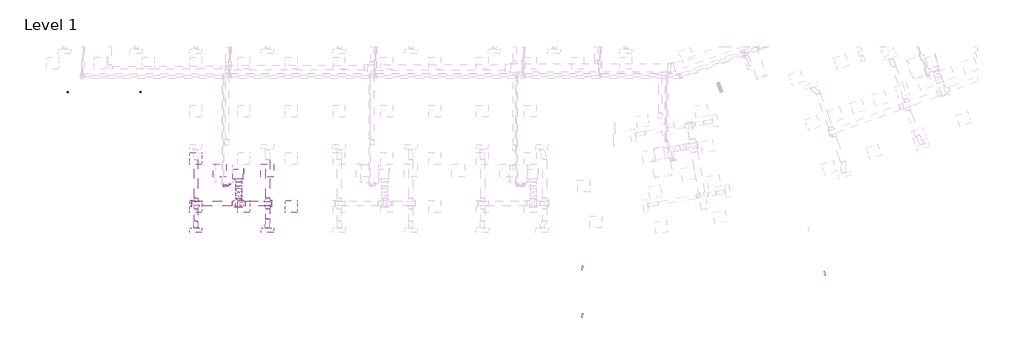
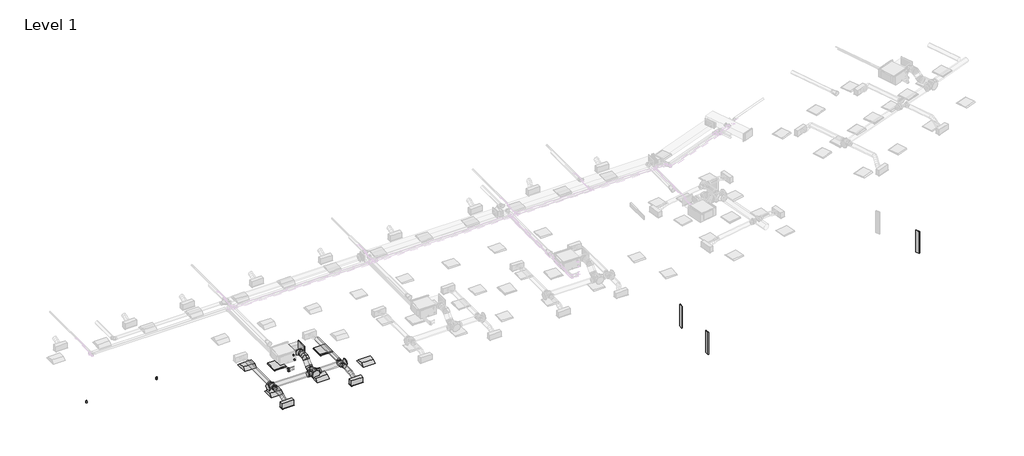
# One storey, part 1 of 30: 13 duct fittings, 12 duct segments, 7 light fixtures, 4 air terminals, 4 pipe fittings, 4 pipe segments, 2 proxies.
"""IFC4 building model written with IfcOpenShell, lengths in millimetres."""

from ifc_helpers import new_model, si_unit, point, frame, frame_2d, origin, place, context, project, spatial, polyline, circle_curve, ellipse_curve, trimmed, segment, composite_curve, outline, extrude, transform, mapped, element, save
from ifc_brep_helpers import plane_surface, cylinder_surface, advanced_brep
from components import return_grille_rectangular_hosted_standard_7b12617c, supply_diffuser_with_plenum_linear_slot_hosted_8c379eed, duplex_receptacle_standard_10251bba, dw144_rectangular_blank_end_standard_8fde7d16, dw144_round_blank_end_standard_f82b0856, dw144_round_blank_end_standard_9aa061e7, dw144_round_segmented_bend_slip_joint_standard_8b80c5ae, dw144_round_shoe_branch_slip_joint1_standard_2_15a2edd8, dw144_round_shoe_branch_slip_joint1_standard_2_559552f4, dw144_round_shoe_branch_slip_joint1_standard_2_7ba9e4ed, dw144_round_shoe_branch_slip_joint1_standard_2_67b64720, plain_recessed_lighting_fixture_2x2_277_2107ce2d, light_fixture_64c2163c, elbow_threaded_gmi_standard_b4aa7741, socket_reducing_threaded_gmi_standard_0a4076b8

model = new_model("IFC4")

# Units and contexts
model_context = context("Model", 3, world=origin())
ifc_project = project(units=[si_unit("LENGTHUNIT", "METRE", prefix="MILLI")], contexts=[model_context])

# Site, building, storey
site = spatial("IfcSite", under=ifc_project)
building = spatial("IfcBuilding", under=site)
storey = spatial("IfcBuildingStorey", under=building, Name="Level 1", Elevation=3900.0)

# Air terminals
placement = place(None, origin())
return_grille_rectangular_hosted_standard_shape = return_grille_rectangular_hosted_standard_7b12617c(model_context)
element("IfcAirTerminal", 1, ObjectType="Return Grille - Rectangular - Hosted : Standard", at=placement, inside=storey, context=model_context, shape_type="MappedRepresentation", body=[
    mapped(return_grille_rectangular_hosted_standard_shape, transform((10362.2000027, 3963.2000004, 6700.0), x_axis=(1.0, 0.0, 0.0), y_axis=(0.0, -1.0, 0.0), z_axis=(0.0, 0.0, -1.0))),
])
element("IfcAirTerminal", 2, ObjectType="Return Grille - Rectangular - Hosted : Standard", at=placement, inside=storey, context=model_context, shape_type="MappedRepresentation", body=[
    mapped(return_grille_rectangular_hosted_standard_shape, transform((12762.2000027, 3963.2000004, 6700.0), x_axis=(1.0, 0.0, 0.0), y_axis=(0.0, -1.0, 0.0), z_axis=(0.0, 0.0, -1.0))),
])
supply_diffuser_with_plenum_linear_slot_hosted_shape = supply_diffuser_with_plenum_linear_slot_hosted_8c379eed(model_context)
element("IfcAirTerminal", 3, ObjectType="Supply Diffuser with Plenum - Linear Slot - Hosted : 24\" x 8\"-200 In Inlet  4-Slot", at=placement, inside=storey, context=model_context, shape_type="MappedRepresentation", body=[
    mapped(supply_diffuser_with_plenum_linear_slot_hosted_shape, transform((9162.2000027, 963.2000004, 6700.0), x_axis=(1.0, 0.0, 0.0), y_axis=(0.0, -1.0, 0.0), z_axis=(0.0, 0.0, -1.0))),
])
element("IfcAirTerminal", 4, ObjectType="Supply Diffuser with Plenum - Linear Slot - Hosted : 24\" x 8\"-200 In Inlet  4-Slot", at=placement, inside=storey, context=model_context, shape_type="MappedRepresentation", body=[
    mapped(supply_diffuser_with_plenum_linear_slot_hosted_shape, transform((12762.2000027, 963.2000004, 6700.0), x_axis=(1.0, 0.0, 0.0), y_axis=(0.0, -1.0, 0.0), z_axis=(0.0, 0.0, -1.0))),
])

# Proxies
duplex_receptacle_standard_shape = duplex_receptacle_standard_10251bba(model_context)
element("IfcBuildingElementProxy", 5, Name="Duplex Receptacle : Standard", ObjectType="Duplex Receptacle : Standard", at=placement, inside=storey, context=model_context, shape_type="MappedRepresentation", body=[
    mapped(duplex_receptacle_standard_shape, transform((6385.8000023, 7938.2000004, 4966.8), x_axis=(-1.0, 0.0, 0.0), y_axis=(0.0, 0.0, 1.0), z_axis=(0.0, 1.0, 0.0))),
])
element("IfcBuildingElementProxy", 6, Name="Duplex Receptacle : Standard", ObjectType="Duplex Receptacle : Standard", at=placement, inside=storey, context=model_context, shape_type="MappedRepresentation", body=[
    mapped(duplex_receptacle_standard_shape, transform((2728.2000023, 7938.2000004, 4966.8), x_axis=(-1.0, 0.0, 0.0), y_axis=(0.0, 0.0, 1.0), z_axis=(0.0, 1.0, 0.0))),
])

# Duct fittings
dw144_rectangular_blank_end_standard_shape = dw144_rectangular_blank_end_standard_8fde7d16(model_context)
element("IfcDuctFitting", 7, ObjectType="DW144 Rectangular Blank End : Standard", at=placement, inside=storey, context=model_context, shape_type="MappedRepresentation", body=[
    mapped(dw144_rectangular_blank_end_standard_shape, transform((11546.2561025, 3806.0000004, 7376.3911538), x_axis=(1.0, 0.0, 0.0), y_axis=(0.0, 1.0, 0.0), z_axis=(0.0, 0.0, 1.0))),
])
dw144_round_blank_end_standard_shape = dw144_round_blank_end_standard_f82b0856(model_context)
element("IfcDuctFitting", 8, ObjectType="DW144 Round Blank End : Standard", at=placement, inside=storey, context=model_context, shape_type="MappedRepresentation", body=[
    mapped(dw144_round_blank_end_standard_shape, transform((11331.4561025, 2142.9916128, 6972.2088531), x_axis=(0.0, -1.0, 0.0), y_axis=(1.0, 0.0, 0.0), z_axis=(0.0, 0.0, 1.0))),
])
dw144_round_blank_end_standard_2_shape = dw144_round_blank_end_standard_9aa061e7(model_context)
element("IfcDuctFitting", 9, ObjectType="DW144 Round Blank End : Standard", at=placement, inside=storey, context=model_context, shape_type="MappedRepresentation", body=[
    mapped(dw144_round_blank_end_standard_2_shape, transform((12961.4561025, 2306.5018192, 6972.2088531), x_axis=(1.0, 0.0, 0.0), y_axis=(0.0, 1.0, 0.0), z_axis=(0.0, 0.0, 1.0))),
])
element("IfcDuctFitting", 10, ObjectType="DW144 Round Blank End : Standard", at=placement, inside=storey, context=model_context, shape_type="MappedRepresentation", body=[
    mapped(dw144_round_blank_end_standard_2_shape, transform((8961.4561025, 2306.5018192, 6972.2088531), x_axis=(-1.0, 0.0, 0.0), y_axis=(0.0, -1.0, 0.0), z_axis=(0.0, 0.0, 1.0))),
])
dw144_round_segmented_bend_slip_joint_standard_shape = dw144_round_segmented_bend_slip_joint_standard_8b80c5ae(model_context)
element("IfcDuctFitting", 11, ObjectType="DW144 Round Segmented Bend - Slip Joint : Standard", at=placement, inside=storey, context=model_context, shape_type="MappedRepresentation", body=[
    mapped(dw144_round_segmented_bend_slip_joint_standard_shape, transform((11331.4561025, 2678.6338536, 6972.2088531), x_axis=(0.0, -0.7071067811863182, -0.7071067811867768), y_axis=(0.0, 0.7071067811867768, -0.7071067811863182), z_axis=(1.0, 0.0, 0.0))),
])
element("IfcDuctFitting", 12, ObjectType="DW144 Round Segmented Bend - Slip Joint : Standard", at=placement, inside=storey, context=model_context, shape_type="MappedRepresentation", body=[
    mapped(dw144_round_segmented_bend_slip_joint_standard_shape, transform((11331.4561025, 3076.0000004, 7369.575), x_axis=(0.0, -1.0, 0.0), y_axis=(0.0, 0.0, 1.0), z_axis=(-1.0, 0.0, 0.0))),
])
dw144_round_shoe_branch_slip_joint1_standard_2_shape = dw144_round_shoe_branch_slip_joint1_standard_2_15a2edd8(model_context)
element("IfcDuctFitting", 13, ObjectType="DW144 Round Shoe Branch - Slip Joint1 : Standard 2", at=placement, inside=storey, context=model_context, shape_type="MappedRepresentation", body=[
    mapped(dw144_round_shoe_branch_slip_joint1_standard_2_shape, transform((9173.9000022, 2181.5018192, 6972.2088531), x_axis=(0.0, -1.0, 0.0), y_axis=(-1.0, 0.0, 0.0), z_axis=(0.0, 0.0, -1.0))),
])
element("IfcDuctFitting", 14, ObjectType="DW144 Round Shoe Branch - Slip Joint1 : Standard 2", at=placement, inside=storey, context=model_context, shape_type="MappedRepresentation", body=[
    mapped(dw144_round_shoe_branch_slip_joint1_standard_2_shape, transform((9173.9000022, 2431.5018192, 6972.2088531), x_axis=(0.0, 1.0, 0.0), y_axis=(-1.0, 0.0, 0.0), z_axis=(0.0, 0.0, 1.0))),
])
dw144_round_shoe_branch_slip_joint1_standard_2_2_shape = dw144_round_shoe_branch_slip_joint1_standard_2_559552f4(model_context)
element("IfcDuctFitting", 15, ObjectType="DW144 Round Shoe Branch - Slip Joint1 : Standard 2", at=placement, inside=storey, context=model_context, shape_type="MappedRepresentation", body=[
    mapped(dw144_round_shoe_branch_slip_joint1_standard_2_2_shape, transform((12773.9000022, 2181.5018192, 6972.2088531), x_axis=(0.0, -1.0, 0.0), y_axis=(-1.0, 0.0, 0.0), z_axis=(0.0, 0.0, -1.0))),
])
element("IfcDuctFitting", 16, ObjectType="DW144 Round Shoe Branch - Slip Joint1 : Standard 2", at=placement, inside=storey, context=model_context, shape_type="MappedRepresentation", body=[
    mapped(dw144_round_shoe_branch_slip_joint1_standard_2_2_shape, transform((12773.9000022, 2431.5018192, 6972.2088531), x_axis=(0.0, 1.0, 0.0), y_axis=(-1.0, 0.0, 0.0), z_axis=(0.0, 0.0, 1.0))),
])
dw144_round_shoe_branch_slip_joint1_standard_2_3_shape = dw144_round_shoe_branch_slip_joint1_standard_2_7ba9e4ed(model_context)
element("IfcDuctFitting", 17, ObjectType="DW144 Round Shoe Branch - Slip Joint1 : Standard 2", at=placement, inside=storey, context=model_context, shape_type="MappedRepresentation", body=[
    mapped(dw144_round_shoe_branch_slip_joint1_standard_2_3_shape, transform((11331.4561025, 3556.0000004, 7369.575), x_axis=(0.0, -1.0, 0.0), y_axis=(-1.0, 0.0, 0.0), z_axis=(0.0, 0.0, -1.0))),
])
dw144_round_shoe_branch_slip_joint1_standard_2_4_shape = dw144_round_shoe_branch_slip_joint1_standard_2_67b64720(model_context)
element("IfcDuctFitting", 18, ObjectType="DW144 Round Shoe Branch - Slip Joint1 : Standard 2", at=placement, inside=storey, context=model_context, shape_type="MappedRepresentation", body=[
    mapped(dw144_round_shoe_branch_slip_joint1_standard_2_4_shape, transform((11481.4561025, 2306.5018192, 6972.2088531), x_axis=(1.0, 0.0, 0.0), y_axis=(0.0, -1.0, 0.0), z_axis=(0.0, 0.0, -1.0))),
])
element("IfcDuctFitting", 19, ObjectType="DW144 Round Shoe Branch - Slip Joint1 : Standard 2", at=placement, inside=storey, context=model_context, shape_type="MappedRepresentation", body=[
    mapped(dw144_round_shoe_branch_slip_joint1_standard_2_4_shape, transform((11181.4561025, 2306.5018192, 6972.2088531), x_axis=(-1.0, 0.0, 0.0), y_axis=(0.0, -1.0, 0.0), z_axis=(0.0, 0.0, 1.0))),
])

# Duct segments
element("IfcDuctSegment", 20, ObjectType="DW144 Flanged Med Radius Bend / Shoe Branch", at=placement, inside=storey, context=model_context, shape_type="SweptSolid", body=[
    extrude(outline(polyline([(11026.6561025, 3556.0000004), (11026.6561025, 4056.0000004), (11546.2561025, 4056.0000004), (11546.2561025, 3556.0000004), (11026.6561025, 3556.0000004)])), frame((0.0, 0.0, 7201.3911538), z_axis=(0.0, 0.0, 1.0), x_axis=(1.0, 0.0, 0.0)), (0.0, 0.0, 1.0), 350.0),
])
element("IfcDuctSegment", 21, ObjectType="DW144 Segmented Bend / Shoe Branch", at=placement, inside=storey, context=model_context, shape_type="SweptSolid", body=[
    extrude(outline(composite_curve([segment(trimmed(circle_curve(frame_2d((7369.575, 11331.4561025)), 150.0), [point((7369.575, 11181.4561025))], [point((7219.575, 11331.4561025))], False, "CARTESIAN"), True, "CONTINUOUS"), segment(trimmed(circle_curve(frame_2d((7369.575, 11331.4561025)), 150.0), [point((7219.575, 11331.4561025))], [point((7369.575, 11481.4561025))], False, "CARTESIAN"), True, "CONTINUOUS"), segment(trimmed(circle_curve(frame_2d((7369.575, 11331.4561025)), 150.0), [point((7369.575, 11481.4561025))], [point((7519.575, 11331.4561025))], False, "CARTESIAN"), True, "CONTINUOUS"), segment(trimmed(circle_curve(frame_2d((7369.575, 11331.4561025)), 150.0), [point((7519.575, 11331.4561025))], [point((7369.575, 11181.4561025))], False, "CARTESIAN"), True, "CONTINUOUS")], self_intersect=False)), frame((0.0, 3200.2640691, 0.0), z_axis=(0.0, 1.0, 0.0), x_axis=(0.0, 0.0, 1.0)), (0.0, 0.0, 1.0), 180.7359313),
])
element("IfcDuctSegment", 22, ObjectType="DW144 Segmented Bend / Shoe Branch", at=placement, inside=storey, context=model_context, shape_type="SweptSolid", body=[
    extrude(outline(composite_curve([segment(trimmed(circle_curve(frame_2d((6972.2088531, 11331.4561025)), 150.0), [point((6972.2088531, 11181.4561025))], [point((6822.2088531, 11331.4561025))], False, "CARTESIAN"), True, "CONTINUOUS"), segment(trimmed(circle_curve(frame_2d((6972.2088531, 11331.4561025)), 150.0), [point((6822.2088531, 11331.4561025))], [point((6972.2088531, 11481.4561025))], False, "CARTESIAN"), True, "CONTINUOUS"), segment(trimmed(circle_curve(frame_2d((6972.2088531, 11331.4561025)), 150.0), [point((6972.2088531, 11481.4561025))], [point((7122.2088531, 11331.4561025))], False, "CARTESIAN"), True, "CONTINUOUS"), segment(trimmed(circle_curve(frame_2d((6972.2088531, 11331.4561025)), 150.0), [point((7122.2088531, 11331.4561025))], [point((6972.2088531, 11181.4561025))], False, "CARTESIAN"), True, "CONTINUOUS")], self_intersect=False)), frame((0.0, 2142.9916128, 0.0), z_axis=(0.0, 1.0, 0.0), x_axis=(0.0, 0.0, 1.0)), (0.0, 0.0, 1.0), 411.3781721),
])
element("IfcDuctSegment", 23, ObjectType="DW144 Segmented Bend / Shoe Branch", at=placement, inside=storey, context=model_context, shape_type="SweptSolid", body=[
    extrude(outline(composite_curve([segment(trimmed(circle_curve(frame_2d((0.0, -150.0)), 150.0), [point((-150.0, -150.0))], [point((0.0, 0.0))], False, "CARTESIAN"), True, "CONTINUOUS"), segment(trimmed(circle_curve(frame_2d((0.0, -150.0)), 150.0), [point((0.0, 0.0))], [point((150.0, -150.0))], False, "CARTESIAN"), True, "CONTINUOUS"), segment(trimmed(circle_curve(frame_2d((0.0, -150.0)), 150.0), [point((150.0, -150.0))], [point((0.0, -300.0))], False, "CARTESIAN"), True, "CONTINUOUS"), segment(trimmed(circle_curve(frame_2d((0.0, -150.0)), 150.0), [point((0.0, -300.0))], [point((-150.0, -150.0))], False, "CARTESIAN"), True, "CONTINUOUS")], self_intersect=False)), frame((11331.4561025, 2872.5678364, 6954.0108016), z_axis=(0.0, 0.7071067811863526, 0.7071067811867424), x_axis=(1.0, 0.0, 0.0)), (0.0, 0.0, 1.0), 313.4324567),
])
element("IfcDuctSegment", 24, ObjectType="DW144 Segmented Bend / Shoe Branch", at=placement, inside=storey, context=model_context, shape_type="SweptSolid", body=[
    extrude(outline(composite_curve([segment(trimmed(circle_curve(frame_2d((2306.5018192, 6972.2088531)), 125.0), [point((2181.5018192, 6972.2088531))], [point((2306.5018192, 7097.2088531))], False, "CARTESIAN"), True, "CONTINUOUS"), segment(trimmed(circle_curve(frame_2d((2306.5018192, 6972.2088531)), 125.0), [point((2306.5018192, 7097.2088531))], [point((2431.5018192, 6972.2088531))], False, "CARTESIAN"), True, "CONTINUOUS"), segment(trimmed(circle_curve(frame_2d((2306.5018192, 6972.2088531)), 125.0), [point((2431.5018192, 6972.2088531))], [point((2306.5018192, 6847.2088531))], False, "CARTESIAN"), True, "CONTINUOUS"), segment(trimmed(circle_curve(frame_2d((2306.5018192, 6972.2088531)), 125.0), [point((2306.5018192, 6847.2088531))], [point((2181.5018192, 6972.2088531))], False, "CARTESIAN"), True, "CONTINUOUS")], self_intersect=False)), frame((11656.4561025, 0.0, 0.0), z_axis=(1.0, 0.0, 0.0), x_axis=(0.0, 1.0, 0.0)), (0.0, 0.0, 1.0), 1305.0),
])
element("IfcDuctSegment", 25, ObjectType="DW144 Segmented Bend / Shoe Branch", at=placement, inside=storey, context=model_context, shape_type="SweptSolid", body=[
    extrude(outline(composite_curve([segment(trimmed(circle_curve(frame_2d((2306.5018192, 6972.2088531)), 125.0), [point((2431.5018192, 6972.2088531))], [point((2306.5018192, 6847.2088531))], False, "CARTESIAN"), True, "CONTINUOUS"), segment(trimmed(circle_curve(frame_2d((2306.5018192, 6972.2088531)), 125.0), [point((2306.5018192, 6847.2088531))], [point((2181.5018192, 6972.2088531))], False, "CARTESIAN"), True, "CONTINUOUS"), segment(trimmed(circle_curve(frame_2d((2306.5018192, 6972.2088531)), 125.0), [point((2181.5018192, 6972.2088531))], [point((2306.5018192, 7097.2088531))], False, "CARTESIAN"), True, "CONTINUOUS"), segment(trimmed(circle_curve(frame_2d((2306.5018192, 6972.2088531)), 125.0), [point((2306.5018192, 7097.2088531))], [point((2431.5018192, 6972.2088531))], False, "CARTESIAN"), True, "CONTINUOUS")], self_intersect=False)), frame((8961.4561025, 0.0, 0.0), z_axis=(1.0, 0.0, 0.0), x_axis=(0.0, 1.0, 0.0)), (0.0, 0.0, 1.0), 2045.0),
])
element("IfcDuctSegment", 26, ObjectType="DW144 Segmented Bend / Shoe Branch", at=placement, inside=storey, context=model_context, shape_type="SweptSolid", body=[
    extrude(outline(composite_curve([segment(trimmed(circle_curve(frame_2d((6972.2088531, 12773.9000022)), 100.0), [point((6972.2088531, 12673.9000022))], [point((6872.2088531, 12773.9000022))], False, "CARTESIAN"), True, "CONTINUOUS"), segment(trimmed(circle_curve(frame_2d((6972.2088531, 12773.9000022)), 100.0), [point((6872.2088531, 12773.9000022))], [point((6972.2088531, 12873.9000022))], False, "CARTESIAN"), True, "CONTINUOUS"), segment(trimmed(circle_curve(frame_2d((6972.2088531, 12773.9000022)), 100.0), [point((6972.2088531, 12873.9000022))], [point((7072.2088531, 12773.9000022))], False, "CARTESIAN"), True, "CONTINUOUS"), segment(trimmed(circle_curve(frame_2d((6972.2088531, 12773.9000022)), 100.0), [point((7072.2088531, 12773.9000022))], [point((6972.2088531, 12673.9000022))], False, "CARTESIAN"), True, "CONTINUOUS")], self_intersect=False)), frame((0.0, 1521.5018192, 0.0), z_axis=(0.0, 1.0, 0.0), x_axis=(0.0, 0.0, 1.0)), (0.0, 0.0, 1.0), 510.0),
])
element("IfcDuctSegment", 27, ObjectType="DW144 Segmented Bend / Shoe Branch", at=placement, inside=storey, context=model_context, shape_type="SweptSolid", body=[
    extrude(outline(composite_curve([segment(trimmed(circle_curve(frame_2d((6972.2088531, 12773.9000022)), 100.0), [point((6972.2088531, 12873.9000022))], [point((7072.2088531, 12773.9000022))], False, "CARTESIAN"), True, "CONTINUOUS"), segment(trimmed(circle_curve(frame_2d((6972.2088531, 12773.9000022)), 100.0), [point((7072.2088531, 12773.9000022))], [point((6972.2088531, 12673.9000022))], False, "CARTESIAN"), True, "CONTINUOUS"), segment(trimmed(circle_curve(frame_2d((6972.2088531, 12773.9000022)), 100.0), [point((6972.2088531, 12673.9000022))], [point((6872.2088531, 12773.9000022))], False, "CARTESIAN"), True, "CONTINUOUS"), segment(trimmed(circle_curve(frame_2d((6972.2088531, 12773.9000022)), 100.0), [point((6872.2088531, 12773.9000022))], [point((6972.2088531, 12873.9000022))], False, "CARTESIAN"), True, "CONTINUOUS")], self_intersect=False)), frame((0.0, 2581.5018192, 0.0), z_axis=(0.0, 1.0, 0.0), x_axis=(0.0, 0.0, 1.0)), (0.0, 0.0, 1.0), 1950.0),
])
element("IfcDuctSegment", 28, ObjectType="DW144 Segmented Bend / Shoe Branch", at=placement, inside=storey, context=model_context, shape_type="SweptSolid", body=[
    extrude(outline(composite_curve([segment(trimmed(circle_curve(frame_2d((6972.2088531, 9173.9000022)), 100.0), [point((6972.2088531, 9273.9000022))], [point((7072.2088531, 9173.9000022))], False, "CARTESIAN"), True, "CONTINUOUS"), segment(trimmed(circle_curve(frame_2d((6972.2088531, 9173.9000022)), 100.0), [point((7072.2088531, 9173.9000022))], [point((6972.2088531, 9073.9000022))], False, "CARTESIAN"), True, "CONTINUOUS"), segment(trimmed(circle_curve(frame_2d((6972.2088531, 9173.9000022)), 100.0), [point((6972.2088531, 9073.9000022))], [point((6872.2088531, 9173.9000022))], False, "CARTESIAN"), True, "CONTINUOUS"), segment(trimmed(circle_curve(frame_2d((6972.2088531, 9173.9000022)), 100.0), [point((6872.2088531, 9173.9000022))], [point((6972.2088531, 9273.9000022))], False, "CARTESIAN"), True, "CONTINUOUS")], self_intersect=False)), frame((0.0, 1441.5018192, 0.0), z_axis=(0.0, 1.0, 0.0), x_axis=(0.0, 0.0, 1.0)), (0.0, 0.0, 1.0), 590.0),
])
element("IfcDuctSegment", 29, ObjectType="DW144 Segmented Bend / Shoe Branch", at=placement, inside=storey, context=model_context, shape_type="SweptSolid", body=[
    extrude(outline(composite_curve([segment(trimmed(circle_curve(frame_2d((6972.2088531, 9173.9000022)), 100.0), [point((6972.2088531, 9273.9000022))], [point((7072.2088531, 9173.9000022))], False, "CARTESIAN"), True, "CONTINUOUS"), segment(trimmed(circle_curve(frame_2d((6972.2088531, 9173.9000022)), 100.0), [point((7072.2088531, 9173.9000022))], [point((6972.2088531, 9073.9000022))], False, "CARTESIAN"), True, "CONTINUOUS"), segment(trimmed(circle_curve(frame_2d((6972.2088531, 9173.9000022)), 100.0), [point((6972.2088531, 9073.9000022))], [point((6872.2088531, 9173.9000022))], False, "CARTESIAN"), True, "CONTINUOUS"), segment(trimmed(circle_curve(frame_2d((6972.2088531, 9173.9000022)), 100.0), [point((6872.2088531, 9173.9000022))], [point((6972.2088531, 9273.9000022))], False, "CARTESIAN"), True, "CONTINUOUS")], self_intersect=False)), frame((0.0, 2581.5018192, 0.0), z_axis=(0.0, 1.0, 0.0), x_axis=(0.0, 0.0, 1.0)), (0.0, 0.0, 1.0), 1950.0),
])
element("IfcDuctSegment", 30, ObjectType="Flex - Round", at=placement, inside=storey, context=model_context, shape_type="AdvancedBrep", body=[
    advanced_brep(
    [(9273.9000022, 1441.5018192, 6972.2088531), (9173.9000022, 1441.5018192, 6872.2088531), (9073.9000022, 1441.5018192, 6972.2088531), (9173.9000022, 1441.5018192, 7072.2088531), (9273.9000022, 1419.9886644, 6972.2088531), (9173.9000022, 1434.4041273, 6872.2088531), (9073.9000022, 1422.5932881, 6972.2088531), (9173.9000022, 1408.1778252, 7072.2088531), (9262.2000027, 1092.1000004, 6854.4), (9162.2000027, 1092.1000004, 6954.4), (9062.2000027, 1092.1000004, 6854.4), (9162.2000027, 1092.1000004, 6754.4), (9272.0154345, 1348.8904029, 6953.2328893), (9172.6402079, 1386.8764181, 6859.5238159), (9072.1283201, 1355.7538157, 6954.3695504), (9171.5035467, 1317.7678004, 7048.0786237), (9267.9552415, 1262.5544078, 6912.3502664), (9169.0041626, 1309.5595036, 6822.9119919), (9068.1447633, 1271.0474118, 6914.2585867), (9167.0958423, 1224.0423161, 7003.6968612), (9263.9716847, 1177.8480039, 6872.2393027), (9164.5964582, 1215.8340192, 6778.5302294), (9064.0845704, 1184.7114168, 6873.3759639), (9163.459797, 1146.7254015, 6967.0850372), (9262.2000027, 1111.0085316, 6854.4), (9162.2000027, 1125.4239944, 6754.4), (9062.2000027, 1113.6131552, 6854.4), (9162.2000027, 1099.1976924, 6954.4)],
    [
        (0, 1, circle_curve(frame((9173.9000022, 1441.5018192, 6972.2088531), z_axis=(0.0, 1.0, 0.0), x_axis=(1.0, 0.0, 0.0)), 100.0)),
        (1, 2, circle_curve(frame((9173.9000022, 1441.5018192, 6972.2088531), z_axis=(0.0, 1.0, 0.0), x_axis=(1.0, 0.0, 0.0)), 100.0)),
        (2, 3, circle_curve(frame((9173.9000022, 1441.5018192, 6972.2088531), z_axis=(0.0, 1.0, 0.0), x_axis=(1.0, 0.0, 0.0)), 100.0)),
        (3, 0, circle_curve(frame((9173.9000022, 1441.5018192, 6972.2088531), z_axis=(0.0, 1.0, 0.0), x_axis=(1.0, 0.0, 0.0)), 100.0)),
        (0, 4),
        (4, 5, ellipse_curve(frame((9173.9000022, 1421.2909763, 6972.2088531), z_axis=(0.012911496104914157, 0.9914289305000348, 0.13000757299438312), x_axis=(-0.0979801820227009, 0.13064714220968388, -0.9865754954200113)), 100.8645168, 100.0)),
        (5, 1),
        (5, 6, ellipse_curve(frame((9173.9000022, 1421.2909763, 6972.2088531), z_axis=(0.012911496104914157, 0.9914289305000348, 0.13000757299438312), x_axis=(-0.0979801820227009, 0.13064714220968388, -0.9865754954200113)), 100.8645168, 100.0)),
        (6, 2),
        (6, 7, ellipse_curve(frame((9173.9000022, 1421.2909763, 6972.2088531), z_axis=(0.012911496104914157, 0.9914289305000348, 0.13000757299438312), x_axis=(-0.0979801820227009, 0.13064714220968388, -0.9865754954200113)), 100.8645168, 100.0)),
        (7, 3),
        (7, 4, ellipse_curve(frame((9173.9000022, 1421.2909763, 6972.2088531), z_axis=(0.012911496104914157, 0.9914289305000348, 0.13000757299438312), x_axis=(-0.0979801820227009, 0.13064714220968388, -0.9865754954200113)), 100.8645168, 100.0)),
        (8, 9, circle_curve(frame((9162.2000027, 1092.1000004, 6854.4), z_axis=(0.0, -1.0, 0.0), x_axis=(1.0, 0.0, 0.0)), 100.0)),
        (9, 10, circle_curve(frame((9162.2000027, 1092.1000004, 6854.4), z_axis=(0.0, -1.0, 0.0), x_axis=(1.0, 0.0, 0.0)), 100.0)),
        (10, 11, circle_curve(frame((9162.2000027, 1092.1000004, 6854.4), z_axis=(0.0, -1.0, 0.0), x_axis=(1.0, 0.0, 0.0)), 100.0)),
        (11, 8, circle_curve(frame((9162.2000027, 1092.1000004, 6854.4), z_axis=(0.0, -1.0, 0.0), x_axis=(1.0, 0.0, 0.0)), 100.0)),
        (4, 12),
        (12, 13, ellipse_curve(frame((9172.0718773, 1352.3221093, 6953.8012198), z_axis=(0.034174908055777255, 0.9383065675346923, 0.3441116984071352), x_axis=(-0.09273024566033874, 0.3458045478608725, -0.9337131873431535)), 100.4159667, 100.0)),
        (13, 5),
        (13, 14, ellipse_curve(frame((9172.0718773, 1352.3221093, 6953.8012198), z_axis=(0.034174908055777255, 0.9383065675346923, 0.3441116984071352), x_axis=(-0.09273024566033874, 0.3458045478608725, -0.9337131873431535)), 100.4159667, 100.0)),
        (14, 6),
        (14, 15, ellipse_curve(frame((9172.0718773, 1352.3221093, 6953.8012198), z_axis=(0.034174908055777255, 0.9383065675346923, 0.3441116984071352), x_axis=(-0.09273024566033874, 0.3458045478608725, -0.9337131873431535)), 100.4159667, 100.0)),
        (15, 7),
        (15, 12, ellipse_curve(frame((9172.0718773, 1352.3221093, 6953.8012198), z_axis=(0.034174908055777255, 0.9383065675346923, 0.3441116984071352), x_axis=(-0.09273024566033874, 0.3458045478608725, -0.9337131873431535)), 100.4159667, 100.0)),
        (12, 16),
        (16, 17, circle_curve(frame((9168.0500024, 1266.8009098, 6913.3044266), z_axis=(0.04246501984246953, 0.9029767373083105, 0.4275859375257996), x_axis=(0.9990523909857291, -0.042465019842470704, -0.009541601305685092)), 100.0)),
        (17, 13),
        (17, 18, circle_curve(frame((9168.0500024, 1266.8009098, 6913.3044266), z_axis=(0.04246501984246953, 0.9029767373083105, 0.4275859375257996), x_axis=(0.9990523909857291, -0.042465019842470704, -0.009541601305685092)), 100.0)),
        (18, 14),
        (18, 19, circle_curve(frame((9168.0500024, 1266.8009098, 6913.3044266), z_axis=(0.04246501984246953, 0.9029767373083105, 0.4275859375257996), x_axis=(0.9990523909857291, -0.042465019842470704, -0.009541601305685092)), 100.0)),
        (19, 15),
        (19, 16, circle_curve(frame((9168.0500024, 1266.8009098, 6913.3044266), z_axis=(0.04246501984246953, 0.9029767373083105, 0.4275859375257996), x_axis=(0.9990523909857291, -0.042465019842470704, -0.009541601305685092)), 100.0)),
        (16, 20),
        (20, 21, ellipse_curve(frame((9164.0281276, 1181.2797104, 6872.8076333), z_axis=(0.03417490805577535, 0.9383065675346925, 0.3441116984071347), x_axis=(0.0927302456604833, -0.3458045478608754, 0.9337131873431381)), 100.4159667, 100.0)),
        (21, 17),
        (21, 22, ellipse_curve(frame((9164.0281276, 1181.2797104, 6872.8076333), z_axis=(0.03417490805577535, 0.9383065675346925, 0.3441116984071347), x_axis=(0.0927302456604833, -0.3458045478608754, 0.9337131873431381)), 100.4159667, 100.0)),
        (22, 18),
        (22, 23, ellipse_curve(frame((9164.0281276, 1181.2797104, 6872.8076333), z_axis=(0.03417490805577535, 0.9383065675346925, 0.3441116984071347), x_axis=(0.0927302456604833, -0.3458045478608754, 0.9337131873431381)), 100.4159667, 100.0)),
        (23, 19),
        (23, 20, ellipse_curve(frame((9164.0281276, 1181.2797104, 6872.8076333), z_axis=(0.03417490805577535, 0.9383065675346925, 0.3441116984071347), x_axis=(0.0927302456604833, -0.3458045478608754, 0.9337131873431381)), 100.4159667, 100.0)),
        (20, 24),
        (24, 25, ellipse_curve(frame((9162.2000027, 1112.3108434, 6854.4), z_axis=(0.012911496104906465, 0.9914289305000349, 0.1300075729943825), x_axis=(0.09798018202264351, -0.13064714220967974, 0.9865754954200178)), 100.8645168, 100.0)),
        (25, 21),
        (25, 26, ellipse_curve(frame((9162.2000027, 1112.3108434, 6854.4), z_axis=(0.012911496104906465, 0.9914289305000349, 0.1300075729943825), x_axis=(0.09798018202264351, -0.13064714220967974, 0.9865754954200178)), 100.8645168, 100.0)),
        (26, 22),
        (26, 27, ellipse_curve(frame((9162.2000027, 1112.3108434, 6854.4), z_axis=(0.012911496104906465, 0.9914289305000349, 0.1300075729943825), x_axis=(0.09798018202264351, -0.13064714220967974, 0.9865754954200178)), 100.8645168, 100.0)),
        (27, 23),
        (27, 24, ellipse_curve(frame((9162.2000027, 1112.3108434, 6854.4), z_axis=(0.012911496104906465, 0.9914289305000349, 0.1300075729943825), x_axis=(0.09798018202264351, -0.13064714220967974, 0.9865754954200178)), 100.8645168, 100.0)),
        (24, 8),
        (11, 25),
        (10, 26),
        (9, 27),
    ],
    [
        plane_surface(frame((9073.9000022, 1441.5018192, 6972.2088531), z_axis=(0.0, 1.0, 0.0), x_axis=(0.0, 0.0, -1.0))),
        cylinder_surface(frame((9173.9000022, 1441.5018192, 6972.2088531), z_axis=(0.0, 1.0, 0.0), x_axis=(1.0, 0.0, 0.0)), 100.0),
        plane_surface(frame((9062.2000027, 1092.1000004, 6854.4), z_axis=(0.0, -1.0, 0.0), x_axis=(0.0, 0.0, -1.0))),
        cylinder_surface(frame((9173.9000022, 1421.2909763, 6972.2088531), z_axis=(0.02560166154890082, 0.965862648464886, 0.25778653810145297), x_axis=(0.9996665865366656, -0.02560166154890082, -0.003357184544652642)), 100.0),
        cylinder_surface(frame((9172.0718773, 1352.3221093, 6953.8012198), z_axis=(0.04246501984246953, 0.9029767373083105, 0.4275859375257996), x_axis=(0.9990523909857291, -0.042465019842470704, -0.009541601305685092)), 100.0),
        cylinder_surface(frame((9168.0500024, 1266.8009098, 6913.3044266), z_axis=(0.04246501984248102, 0.90297673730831, 0.42758593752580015), x_axis=(0.9990523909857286, -0.04246501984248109, -0.009541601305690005)), 100.0),
        cylinder_surface(frame((9164.0281276, 1181.2797104, 6872.8076333), z_axis=(0.025601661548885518, 0.9658626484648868, 0.2577865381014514), x_axis=(0.999666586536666, -0.02560166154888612, -0.003357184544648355)), 100.0),
        cylinder_surface(frame((9162.2000027, 1112.3108434, 6854.4), z_axis=(0.0, 1.0, 0.0), x_axis=(1.0, 0.0, 0.0)), 100.0),
    ],
    [
        (0, [[1, 2, 3, 4]]),
        (1, [[-1, 5, 6, 7]]),
        (1, [[-2, -7, 8, 9]]),
        (1, [[-3, -9, 10, 11]]),
        (1, [[-4, -11, 12, -5]]),
        (2, [[13, 14, 15, 16]]),
        (3, [[-6, 17, 18, 19]]),
        (3, [[-8, -19, 20, 21]]),
        (3, [[-10, -21, 22, 23]]),
        (3, [[-12, -23, 24, -17]]),
        (4, [[-18, 25, 26, 27]]),
        (4, [[-20, -27, 28, 29]]),
        (4, [[-22, -29, 30, 31]]),
        (4, [[-24, -31, 32, -25]]),
        (5, [[-26, 33, 34, 35]]),
        (5, [[-28, -35, 36, 37]]),
        (5, [[-30, -37, 38, 39]]),
        (5, [[-32, -39, 40, -33]]),
        (6, [[-34, 41, 42, 43]]),
        (6, [[-36, -43, 44, 45]]),
        (6, [[-38, -45, 46, 47]]),
        (6, [[-40, -47, 48, -41]]),
        (7, [[-42, 49, -16, 50]]),
        (7, [[-44, -50, -15, 51]]),
        (7, [[-46, -51, -14, 52]]),
        (7, [[-48, -52, -13, -49]]),
    ],
),
])
element("IfcDuctSegment", 31, ObjectType="Flex - Round", at=placement, inside=storey, context=model_context, shape_type="AdvancedBrep", body=[
    advanced_brep(
    [(12873.9000022, 1521.5018192, 6972.2088531), (12773.9000022, 1521.5018192, 6872.2088531), (12673.9000022, 1521.5018192, 6972.2088531), (12773.9000022, 1521.5018192, 7072.2088531), (12873.9000022, 1503.8483968, 6972.2088531), (12773.9000022, 1514.716186, 6872.2088531), (12673.9000022, 1505.8120174, 6972.2088531), (12773.9000022, 1494.9442282, 7072.2088531), (12862.2000027, 1092.1000004, 6854.4), (12762.2000027, 1092.1000004, 6954.4), (12662.2000027, 1092.1000004, 6854.4), (12762.2000027, 1092.1000004, 6754.4), (12872.0365094, 1409.8841765, 6953.4450953), (12772.4280018, 1440.492465, 6857.3870846), (12672.1072452, 1415.4145623, 6954.1573443), (12771.7157528, 1384.8062738, 7050.2153551), (12867.9849454, 1303.2543522, 6912.6493581), (12768.7050709, 1342.5116705, 6819.9003985), (12668.1150595, 1310.3474674, 6913.9594951), (12767.3949339, 1271.0901491, 7006.7084546), (12863.9927597, 1198.1872573, 6872.4515088), (12764.3842521, 1228.7955458, 6776.3934981), (12664.0634955, 1203.7176431, 6873.1637578), (12763.6720031, 1173.1093547, 6969.2217685), (12862.2000027, 1107.7898022, 6854.4), (12762.2000027, 1118.6575914, 6754.4), (12662.2000027, 1109.7534229, 6854.4), (12762.2000027, 1098.8856336, 6954.4)],
    [
        (0, 1, circle_curve(frame((12773.9000022, 1521.5018192, 6972.2088531), z_axis=(0.0, 1.0, 0.0), x_axis=(1.0, 0.0, 0.0)), 100.0)),
        (1, 2, circle_curve(frame((12773.9000022, 1521.5018192, 6972.2088531), z_axis=(0.0, 1.0, 0.0), x_axis=(1.0, 0.0, 0.0)), 100.0)),
        (2, 3, circle_curve(frame((12773.9000022, 1521.5018192, 6972.2088531), z_axis=(0.0, 1.0, 0.0), x_axis=(1.0, 0.0, 0.0)), 100.0)),
        (3, 0, circle_curve(frame((12773.9000022, 1521.5018192, 6972.2088531), z_axis=(0.0, 1.0, 0.0), x_axis=(1.0, 0.0, 0.0)), 100.0)),
        (0, 4),
        (4, 5, ellipse_curve(frame((12773.9000022, 1504.8302071, 6972.2088531), z_axis=(0.00977000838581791, 0.9951014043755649, 0.09837551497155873), x_axis=(-0.09834312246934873, 0.09885947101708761, -0.990229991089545)), 100.492271, 100.0)),
        (5, 1),
        (5, 6, ellipse_curve(frame((12773.9000022, 1504.8302071, 6972.2088531), z_axis=(0.00977000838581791, 0.9951014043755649, 0.09837551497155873), x_axis=(-0.09834312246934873, 0.09885947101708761, -0.990229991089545)), 100.492271, 100.0)),
        (6, 2),
        (6, 7, ellipse_curve(frame((12773.9000022, 1504.8302071, 6972.2088531), z_axis=(0.00977000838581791, 0.9951014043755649, 0.09837551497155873), x_axis=(-0.09834312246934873, 0.09885947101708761, -0.990229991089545)), 100.492271, 100.0)),
        (7, 3),
        (7, 4, ellipse_curve(frame((12773.9000022, 1504.8302071, 6972.2088531), z_axis=(0.00977000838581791, 0.9951014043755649, 0.09837551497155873), x_axis=(-0.09834312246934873, 0.09885947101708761, -0.990229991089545)), 100.492271, 100.0)),
        (8, 9, circle_curve(frame((12762.2000027, 1092.1000004, 6854.4), z_axis=(0.0, -1.0, 0.0), x_axis=(1.0, 0.0, 0.0)), 100.0)),
        (9, 10, circle_curve(frame((12762.2000027, 1092.1000004, 6854.4), z_axis=(0.0, -1.0, 0.0), x_axis=(1.0, 0.0, 0.0)), 100.0)),
        (10, 11, circle_curve(frame((12762.2000027, 1092.1000004, 6854.4), z_axis=(0.0, -1.0, 0.0), x_axis=(1.0, 0.0, 0.0)), 100.0)),
        (11, 8, circle_curve(frame((12762.2000027, 1092.1000004, 6854.4), z_axis=(0.0, -1.0, 0.0), x_axis=(1.0, 0.0, 0.0)), 100.0)),
        (4, 12),
        (12, 13, ellipse_curve(frame((12772.0718773, 1412.6493694, 6953.8012198), z_axis=(0.027553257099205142, 0.9603485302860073, 0.2774374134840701), x_axis=(-0.09490859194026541, 0.2788022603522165, -0.9556472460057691)), 100.358114, 100.0)),
        (13, 5),
        (13, 14, ellipse_curve(frame((12772.0718773, 1412.6493694, 6953.8012198), z_axis=(0.027553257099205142, 0.9603485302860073, 0.2774374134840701), x_axis=(-0.09490859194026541, 0.2788022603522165, -0.9556472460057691)), 100.358114, 100.0)),
        (14, 6),
        (14, 15, ellipse_curve(frame((12772.0718773, 1412.6493694, 6953.8012198), z_axis=(0.027553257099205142, 0.9603485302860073, 0.2774374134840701), x_axis=(-0.09490859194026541, 0.2788022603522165, -0.9556472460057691)), 100.358114, 100.0)),
        (15, 7),
        (15, 12, ellipse_curve(frame((12772.0718773, 1412.6493694, 6953.8012198), z_axis=(0.027553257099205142, 0.9603485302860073, 0.2774374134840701), x_axis=(-0.09490859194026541, 0.2788022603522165, -0.9556472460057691)), 100.358114, 100.0)),
        (12, 16),
        (16, 17, circle_curve(frame((12768.0500024, 1306.8009098, 6913.3044266), z_axis=(0.03546557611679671, 0.933389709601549, 0.35710760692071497), x_axis=(0.9993494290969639, -0.03546557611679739, -0.006550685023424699)), 100.0)),
        (17, 13),
        (17, 18, circle_curve(frame((12768.0500024, 1306.8009098, 6913.3044266), z_axis=(0.03546557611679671, 0.933389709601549, 0.35710760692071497), x_axis=(0.9993494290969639, -0.03546557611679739, -0.006550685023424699)), 100.0)),
        (18, 14),
        (18, 19, circle_curve(frame((12768.0500024, 1306.8009098, 6913.3044266), z_axis=(0.03546557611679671, 0.933389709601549, 0.35710760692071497), x_axis=(0.9993494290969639, -0.03546557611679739, -0.006550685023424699)), 100.0)),
        (19, 15),
        (19, 16, circle_curve(frame((12768.0500024, 1306.8009098, 6913.3044266), z_axis=(0.03546557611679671, 0.933389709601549, 0.35710760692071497), x_axis=(0.9993494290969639, -0.03546557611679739, -0.006550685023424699)), 100.0)),
        (16, 20),
        (20, 21, ellipse_curve(frame((12764.0281276, 1200.9524502, 6872.8076333), z_axis=(0.02755325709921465, 0.9603485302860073, 0.27743741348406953), x_axis=(0.09490859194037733, -0.2788022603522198, 0.955647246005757)), 100.358114, 100.0)),
        (21, 17),
        (21, 22, ellipse_curve(frame((12764.0281276, 1200.9524502, 6872.8076333), z_axis=(0.02755325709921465, 0.9603485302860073, 0.27743741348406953), x_axis=(0.09490859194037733, -0.2788022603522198, 0.955647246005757)), 100.358114, 100.0)),
        (22, 18),
        (22, 23, ellipse_curve(frame((12764.0281276, 1200.9524502, 6872.8076333), z_axis=(0.02755325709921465, 0.9603485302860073, 0.27743741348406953), x_axis=(0.09490859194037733, -0.2788022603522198, 0.955647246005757)), 100.358114, 100.0)),
        (23, 19),
        (23, 20, ellipse_curve(frame((12764.0281276, 1200.9524502, 6872.8076333), z_axis=(0.02755325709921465, 0.9603485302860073, 0.27743741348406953), x_axis=(0.09490859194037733, -0.2788022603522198, 0.955647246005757)), 100.358114, 100.0)),
        (20, 24),
        (24, 25, ellipse_curve(frame((12762.2000027, 1108.7716125, 6854.4), z_axis=(0.009770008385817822, 0.9951014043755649, 0.09837551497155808), x_axis=(0.09834312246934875, -0.09885947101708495, 0.9902299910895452)), 100.492271, 100.0)),
        (25, 21),
        (25, 26, ellipse_curve(frame((12762.2000027, 1108.7716125, 6854.4), z_axis=(0.009770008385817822, 0.9951014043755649, 0.09837551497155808), x_axis=(0.09834312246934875, -0.09885947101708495, 0.9902299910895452)), 100.492271, 100.0)),
        (26, 22),
        (26, 27, ellipse_curve(frame((12762.2000027, 1108.7716125, 6854.4), z_axis=(0.009770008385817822, 0.9951014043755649, 0.09837551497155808), x_axis=(0.09834312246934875, -0.09885947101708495, 0.9902299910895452)), 100.492271, 100.0)),
        (27, 23),
        (27, 24, ellipse_curve(frame((12762.2000027, 1108.7716125, 6854.4), z_axis=(0.009770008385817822, 0.9951014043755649, 0.09837551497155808), x_axis=(0.09834312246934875, -0.09885947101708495, 0.9902299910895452)), 100.492271, 100.0)),
        (24, 8),
        (11, 25),
        (10, 26),
        (9, 27),
    ],
    [
        plane_surface(frame((12673.9000022, 1521.5018192, 6972.2088531), z_axis=(0.0, 1.0, 0.0), x_axis=(0.0, 0.0, -1.0))),
        cylinder_surface(frame((12773.9000022, 1521.5018192, 6972.2088531), z_axis=(0.0, 1.0, 0.0), x_axis=(1.0, 0.0, 0.0)), 100.0),
        plane_surface(frame((12662.2000027, 1092.1000004, 6854.4), z_axis=(0.0, -1.0, 0.0), x_axis=(0.0, 0.0, -1.0))),
        cylinder_surface(frame((12773.9000022, 1504.8302071, 6972.2088531), z_axis=(0.0194442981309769, 0.9804536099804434, 0.19578722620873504), x_axis=(0.9998090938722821, -0.0194442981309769, -0.001922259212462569)), 100.0),
        cylinder_surface(frame((12772.0718773, 1412.6493694, 6953.8012198), z_axis=(0.03546557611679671, 0.933389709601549, 0.35710760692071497), x_axis=(0.9993494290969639, -0.03546557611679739, -0.006550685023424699)), 100.0),
        cylinder_surface(frame((12768.0500024, 1306.8009098, 6913.3044266), z_axis=(0.035465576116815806, 0.9333897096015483, 0.3571076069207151), x_axis=(0.9993494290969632, -0.03546557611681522, -0.006550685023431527)), 100.0),
        cylinder_surface(frame((12764.0281276, 1200.9524502, 6872.8076333), z_axis=(0.019444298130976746, 0.9804536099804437, 0.1957872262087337), x_axis=(0.9998090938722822, -0.01944429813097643, -0.0019222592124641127)), 100.0),
        cylinder_surface(frame((12762.2000027, 1108.7716125, 6854.4), z_axis=(0.0, 1.0, 0.0), x_axis=(1.0, 0.0, 0.0)), 100.0),
    ],
    [
        (0, [[1, 2, 3, 4]]),
        (1, [[-1, 5, 6, 7]]),
        (1, [[-2, -7, 8, 9]]),
        (1, [[-3, -9, 10, 11]]),
        (1, [[-4, -11, 12, -5]]),
        (2, [[13, 14, 15, 16]]),
        (3, [[-6, 17, 18, 19]]),
        (3, [[-8, -19, 20, 21]]),
        (3, [[-10, -21, 22, 23]]),
        (3, [[-12, -23, 24, -17]]),
        (4, [[-18, 25, 26, 27]]),
        (4, [[-20, -27, 28, 29]]),
        (4, [[-22, -29, 30, 31]]),
        (4, [[-24, -31, 32, -25]]),
        (5, [[-26, 33, 34, 35]]),
        (5, [[-28, -35, 36, 37]]),
        (5, [[-30, -37, 38, 39]]),
        (5, [[-32, -39, 40, -33]]),
        (6, [[-34, 41, 42, 43]]),
        (6, [[-36, -43, 44, 45]]),
        (6, [[-38, -45, 46, 47]]),
        (6, [[-40, -47, 48, -41]]),
        (7, [[-42, 49, -16, 50]]),
        (7, [[-44, -50, -15, 51]]),
        (7, [[-46, -51, -14, 52]]),
        (7, [[-48, -52, -13, -49]]),
    ],
),
])

# Light fixtures
plain_recessed_lighting_fixture_2x2_277_shape = plain_recessed_lighting_fixture_2x2_277_2107ce2d(model_context)
element("IfcLightFixture", 32, ObjectType="Plain Recessed Lighting Fixture : 2x2 - 277", at=placement, inside=storey, context=model_context, shape_type="MappedRepresentation", body=[
    mapped(plain_recessed_lighting_fixture_2x2_277_shape, transform((8862.2000027, 1863.2000003, 6700.0), x_axis=(1.0, 0.0, 0.0), y_axis=(0.0, -1.0, 0.0), z_axis=(0.0, 0.0, -1.0))),
])
element("IfcLightFixture", 33, ObjectType="Plain Recessed Lighting Fixture : 2x2 - 277", at=placement, inside=storey, context=model_context, shape_type="MappedRepresentation", body=[
    mapped(plain_recessed_lighting_fixture_2x2_277_shape, transform((11262.2000027, 1863.2000003, 6700.0), x_axis=(1.0, 0.0, 0.0), y_axis=(0.0, -1.0, 0.0), z_axis=(0.0, 0.0, -1.0))),
])
element("IfcLightFixture", 34, ObjectType="Plain Recessed Lighting Fixture : 2x2 - 277", at=placement, inside=storey, context=model_context, shape_type="MappedRepresentation", body=[
    mapped(plain_recessed_lighting_fixture_2x2_277_shape, transform((13662.2000027, 1863.2000003, 6700.0), x_axis=(1.0, 0.0, 0.0), y_axis=(0.0, -1.0, 0.0), z_axis=(0.0, 0.0, -1.0))),
])
element("IfcLightFixture", 35, ObjectType="Plain Recessed Lighting Fixture : 2x2 - 277", at=placement, inside=storey, context=model_context, shape_type="MappedRepresentation", body=[
    mapped(plain_recessed_lighting_fixture_2x2_277_shape, transform((8862.2000027, 4263.2000003, 6700.0), x_axis=(1.0, 0.0, 0.0), y_axis=(0.0, -1.0, 0.0), z_axis=(0.0, 0.0, -1.0))),
])
light_fixture_shape = light_fixture_64c2163c(model_context)
element("IfcLightFixture", 36, ObjectType="Plain Surface Lighting Fixture : 8\" x 48\" - 230", at=placement, inside=storey, context=model_context, shape_type="MappedRepresentation", body=[
    mapped(light_fixture_shape, transform((28564.8766926, -2669.6946701, 6338.8521354), x_axis=(0.0, 0.0, 1.0), y_axis=(-5.6002563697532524e-11, -1.0, 0.0), z_axis=(1.0, -5.6002563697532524e-11, 0.0))),
])
element("IfcLightFixture", 37, ObjectType="Plain Surface Lighting Fixture : 8\" x 48\" - 230", at=placement, inside=storey, context=model_context, shape_type="MappedRepresentation", body=[
    mapped(light_fixture_shape, transform((41007.2655529, -1794.4204217, 6338.8521354), x_axis=(0.0, 0.0, 1.0), y_axis=(-0.34202014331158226, 0.9396926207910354, 0.0), z_axis=(-0.9396926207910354, -0.34202014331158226, 0.0))),
])
element("IfcLightFixture", 38, ObjectType="Plain Surface Lighting Fixture : 8\" x 48\" - 230", at=placement, inside=storey, context=model_context, shape_type="MappedRepresentation", body=[
    mapped(light_fixture_shape, transform((28564.8766927, -300.0733679, 6338.8521354), x_axis=(0.0, 0.0, 1.0), y_axis=(-5.6002563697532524e-11, -1.0, 0.0), z_axis=(1.0, -5.6002563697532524e-11, 0.0))),
])

# Pipe fittings
elbow_threaded_gmi_standard_shape = elbow_threaded_gmi_standard_b4aa7741(model_context)
element("IfcPipeFitting", 39, ObjectType="Elbow - Threaded - GMI : Standard", at=placement, inside=storey, context=model_context, shape_type="MappedRepresentation", body=[
    mapped(elbow_threaded_gmi_standard_shape, transform((10521.3774685, 3177.232951, 6793.9343179), x_axis=(0.0, -1.0, 0.0), y_axis=(1.0, 0.0, 0.0), z_axis=(0.0, 0.0, 1.0))),
])
element("IfcPipeFitting", 40, ObjectType="Elbow - Threaded - GMI : Standard", at=placement, inside=storey, context=model_context, shape_type="MappedRepresentation", body=[
    mapped(elbow_threaded_gmi_standard_shape, transform((10542.0529581, 3246.7427522, 6880.0), x_axis=(0.0, -1.0, 0.0), y_axis=(1.0, 0.0, 0.0), z_axis=(0.0, 0.0, 1.0))),
])
socket_reducing_threaded_gmi_standard_shape = socket_reducing_threaded_gmi_standard_0a4076b8(model_context)
element("IfcPipeFitting", 41, ObjectType="Socket Reducing - Threaded - GMI : Standard", at=placement, inside=storey, context=model_context, shape_type="MappedRepresentation", body=[
    mapped(socket_reducing_threaded_gmi_standard_shape, transform((10899.6561025, 3323.4000004, 7223.9911538), x_axis=(0.0, -1.0, 0.0), y_axis=(1.0, 0.0, 0.0), z_axis=(0.0, 0.0, 1.0))),
])
element("IfcPipeFitting", 42, ObjectType="Socket Reducing - Threaded - GMI : Standard", at=placement, inside=storey, context=model_context, shape_type="MappedRepresentation", body=[
    mapped(socket_reducing_threaded_gmi_standard_shape, transform((10848.8561025, 3323.4000004, 7503.3911538), x_axis=(0.0, -1.0, 0.0), y_axis=(1.0, 0.0, 0.0), z_axis=(0.0, 0.0, 1.0))),
])

# Pipe segments
element("IfcPipeSegment", 43, ObjectType="Carbon Steel - Threaded", at=placement, inside=storey, context=model_context, shape_type="SweptSolid", body=[
    extrude(outline(composite_curve([segment(trimmed(circle_curve(frame_2d((0.0, -21.45)), 21.45), [point((0.0, 0.0))], [point((21.45, -21.45))], False, "CARTESIAN"), True, "CONTINUOUS"), segment(trimmed(circle_curve(frame_2d((0.0, -21.45)), 21.45), [point((21.45, -21.45))], [point((0.0, -42.9))], False, "CARTESIAN"), True, "CONTINUOUS"), segment(trimmed(circle_curve(frame_2d((0.0, -21.45)), 21.45), [point((0.0, -42.9))], [point((-21.45, -21.45))], False, "CARTESIAN"), True, "CONTINUOUS"), segment(trimmed(circle_curve(frame_2d((0.0, -21.45)), 21.45), [point((-21.45, -21.45))], [point((0.0, 0.0))], False, "CARTESIAN"), True, "CONTINUOUS")], self_intersect=False)), frame((10878.2061025, 3271.4000004, 7223.9911538), z_axis=(2.8775490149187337e-12, 1.0, 0.0), x_axis=(0.0, 0.0, -1.0)), (0.0, 0.0, 1.0), 20.3427518),
])
element("IfcPipeSegment", 44, ObjectType="Carbon Steel - Threaded", at=placement, inside=storey, context=model_context, shape_type="SweptSolid", body=[
    extrude(outline(composite_curve([segment(trimmed(circle_curve(frame_2d((7503.3911538, 10848.8561025)), 21.45), [point((7503.3911538, 10870.3061025))], [point((7524.8411538, 10848.8561025))], False, "CARTESIAN"), True, "CONTINUOUS"), segment(trimmed(circle_curve(frame_2d((7503.3911538, 10848.8561025)), 21.45), [point((7524.8411538, 10848.8561025))], [point((7503.3911538, 10827.4061025))], False, "CARTESIAN"), True, "CONTINUOUS"), segment(trimmed(circle_curve(frame_2d((7503.3911538, 10848.8561025)), 21.45), [point((7503.3911538, 10827.4061025))], [point((7481.9411538, 10848.8561025))], False, "CARTESIAN"), True, "CONTINUOUS"), segment(trimmed(circle_curve(frame_2d((7503.3911538, 10848.8561025)), 21.45), [point((7481.9411538, 10848.8561025))], [point((7503.3911538, 10870.3061025))], False, "CARTESIAN"), True, "CONTINUOUS")], self_intersect=False)), frame((0.0, 3222.232951, 0.0), z_axis=(0.0, 1.0, 0.0), x_axis=(0.0, 0.0, 1.0)), (0.0, 0.0, 1.0), 49.1670495),
])
element("IfcPipeSegment", 45, ObjectType="Carbon Steel - Threaded", at=placement, inside=storey, context=model_context, shape_type="SweptSolid", body=[
    extrude(outline(composite_curve([segment(trimmed(circle_curve(frame_2d((3177.232951, 6793.9343179)), 21.45), [point((3198.682951, 6793.9343179))], [point((3177.232951, 6772.4843179))], False, "CARTESIAN"), True, "CONTINUOUS"), segment(trimmed(circle_curve(frame_2d((3177.232951, 6793.9343179)), 21.45), [point((3177.232951, 6772.4843179))], [point((3155.782951, 6793.9343179))], False, "CARTESIAN"), True, "CONTINUOUS"), segment(trimmed(circle_curve(frame_2d((3177.232951, 6793.9343179)), 21.45), [point((3155.782951, 6793.9343179))], [point((3177.232951, 6815.3843179))], False, "CARTESIAN"), True, "CONTINUOUS"), segment(trimmed(circle_curve(frame_2d((3177.232951, 6793.9343179)), 21.45), [point((3177.232951, 6815.3843179))], [point((3198.682951, 6793.9343179))], False, "CARTESIAN"), True, "CONTINUOUS")], self_intersect=False)), frame((10566.3774685, 0.0, 0.0), z_axis=(1.0, 0.0, 0.0), x_axis=(0.0, 1.0, 0.0)), (0.0, 0.0, 1.0), 237.478634),
])
element("IfcPipeSegment", 46, ObjectType="Carbon Steel - Threaded", at=placement, inside=storey, context=model_context, shape_type="SweptSolid", body=[
    extrude(outline(composite_curve([segment(trimmed(circle_curve(frame_2d((3246.7427522, 6880.0)), 21.45), [point((3268.1927522, 6880.0))], [point((3246.7427522, 6858.55))], False, "CARTESIAN"), True, "CONTINUOUS"), segment(trimmed(circle_curve(frame_2d((3246.7427522, 6880.0)), 21.45), [point((3246.7427522, 6858.55))], [point((3225.2927522, 6880.0))], False, "CARTESIAN"), True, "CONTINUOUS"), segment(trimmed(circle_curve(frame_2d((3246.7427522, 6880.0)), 21.45), [point((3225.2927522, 6880.0))], [point((3246.7427522, 6901.45))], False, "CARTESIAN"), True, "CONTINUOUS"), segment(trimmed(circle_curve(frame_2d((3246.7427522, 6880.0)), 21.45), [point((3246.7427522, 6901.45))], [point((3268.1927522, 6880.0))], False, "CARTESIAN"), True, "CONTINUOUS")], self_intersect=False)), frame((10587.0529581, 0.0, 0.0), z_axis=(1.0, 0.0, 0.0), x_axis=(0.0, 1.0, 0.0)), (0.0, 0.0, 1.0), 267.6031444),
])

save(model, "model.ifc")
